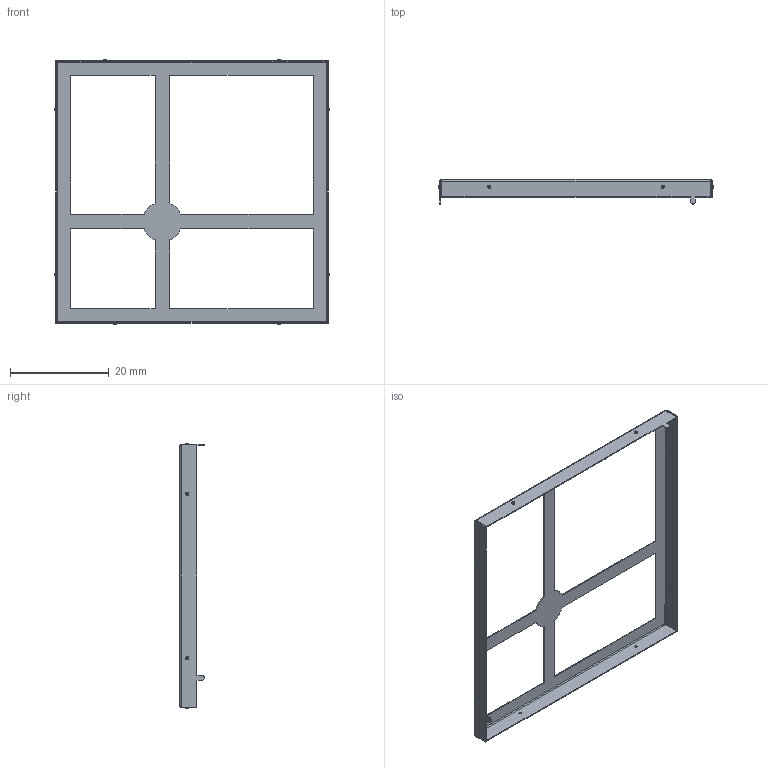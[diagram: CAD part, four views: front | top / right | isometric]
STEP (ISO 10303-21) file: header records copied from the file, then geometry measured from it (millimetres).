
FILE_DESCRIPTION((''),'2;1');
FILE_NAME('SHIELDING_FRAME_TOP','2020-08-11T',('G6003023'),(''),'PRO/ENGINEER BY PARAMETRIC TECHNOLOGY CORPORATION, 2013150','PRO/ENGINEER BY PARAMETRIC TECHNOLOGY CORPORATION, 2013150','');
FILE_SCHEMA(('CONFIG_CONTROL_DESIGN'));
Length unit declared in the file: millimetre
Products named in the file (1): SHIELDING_FRAME_TOP
Bounding box: 55.69 x 5 x 53.81 mm (x, y, z)
Volume: 318.8 mm3; surface area: 3308.7 mm2
Topology: 1 solids, 1 shells, 154 faces, 344 edges, 208 vertices
Faces by surface type: plane 70, bspline 52, cylinder 16, torus 16
Entity records: 5634 total; most frequent: CARTESIAN_POINT 2218, DIRECTION 732, ORIENTED_EDGE 688, EDGE_CURVE 344, AXIS2_PLACEMENT_3D 294, VERTEX_POINT 208, CIRCLE 192, EDGE_LOOP 178
